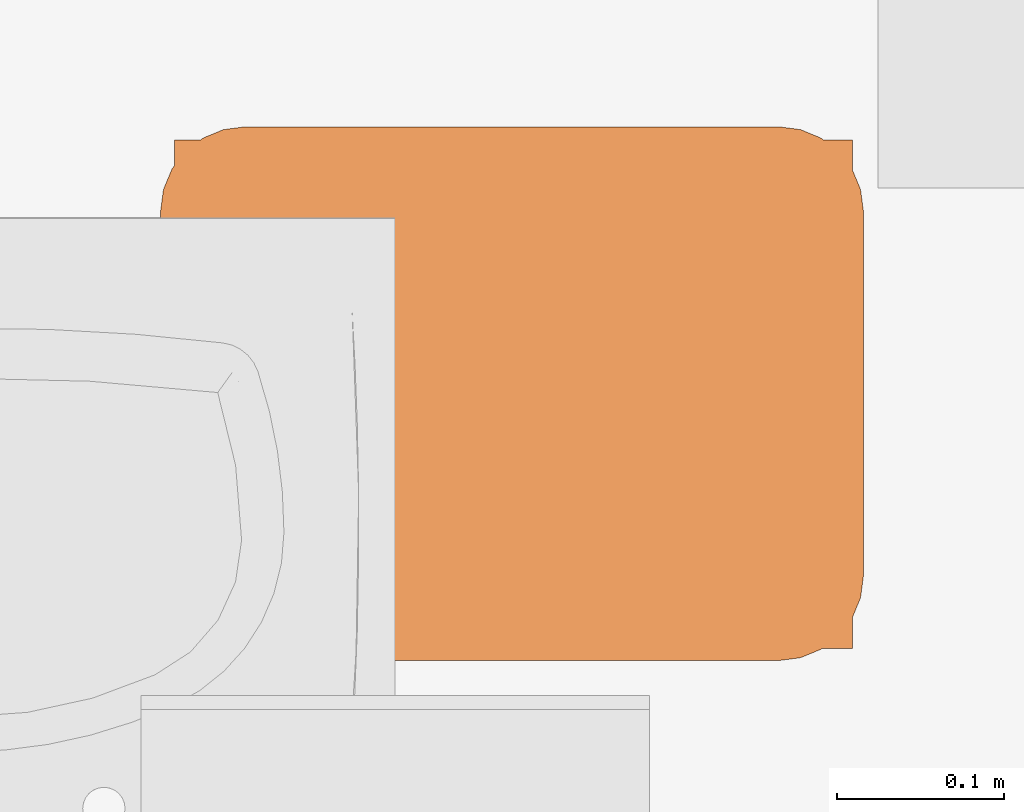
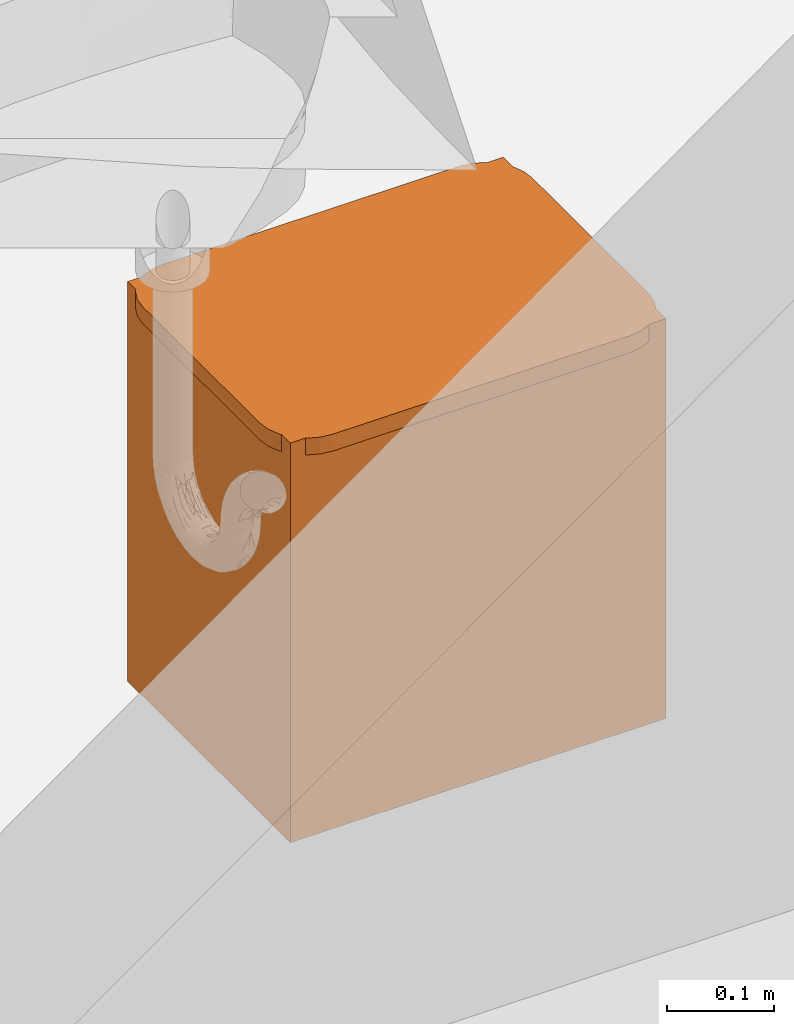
# One storey, part 7 of 9: 1 proxy.
"""IFC2X3 building model written with IfcOpenShell, lengths in feet."""

import ifcopenshell
import ifcopenshell.guid

model = None  # the IFC model being written
_history = None  # IfcOwnerHistory: only IFC2X3 demands one
_inside = {}  # id of a spatial element -> (the spatial element, [elements in it])
_under = {}  # id of a project, library or spatial element -> (it, [spatial elements below it])
_declared = {}  # id of a project -> (the project, [libraries it declares])
_typed = {}  # id of a type object -> (the type object, [elements of that type])
_made_of = {}  # id of a material, layer set ... -> (it, [elements and type objects made of it])


def new_model(schema):
    """Start an empty IFC model of exactly this schema.

    Asked for "IFC4X3", IfcOpenShell would pick the latest addendum, in which some entities
    have other attributes; the version numbers below select the first issue.
    IFC2X3 requires an IfcOwnerHistory on every rooted entity: one is made here for all.
    """
    global model, _history
    if schema == "IFC4X3":
        model = ifcopenshell.file(schema_version=(4, 3, 0, 0))
    else:
        model = ifcopenshell.file(schema=schema)
    _inside.clear()
    _under.clear()
    _declared.clear()
    _typed.clear()
    _made_of.clear()
    _history = None
    if model.schema == "IFC2X3":
        org = make("IfcOrganization", Name="unknown")
        user = make(
            "IfcPersonAndOrganization",
            ThePerson=make("IfcPerson", FamilyName="unknown"),
            TheOrganization=org,
        )
        app = make(
            "IfcApplication",
            ApplicationDeveloper=org,
            Version="unknown",
            ApplicationFullName="unknown",
            ApplicationIdentifier="unknown",
        )
        _history = make(
            "IfcOwnerHistory",
            OwningUser=user,
            OwningApplication=app,
            ChangeAction="ADDED",
            CreationDate=0,
        )
    return model


def make(cls, **values):
    """One entity of the class cls with the attributes given. An attribute that is None is left unset."""
    return model.create_entity(
        cls, **{name: value for name, value in values.items() if value is not None}
    )


def entity(cls, *values):
    """Any entity or typed value of the class cls, its attributes in the order of the schema. None: left unset."""
    e = model.create_entity(cls)
    for i, value in enumerate(values):
        if value is not None:
            e[i] = value
    return e


def rooted(cls, **values):
    """An entity with a GlobalId (a new one), such as an element, a storey or a relation."""
    return make(cls, GlobalId=ifcopenshell.guid.new(), OwnerHistory=_history, **values)


def si_unit(unit_type, name, prefix=None):
    """IfcSIUnit, for example si_unit("LENGTHUNIT", "METRE", prefix="MILLI")."""
    return make("IfcSIUnit", UnitType=unit_type, Prefix=prefix, Name=name)


def converted_unit(unit_type, name, factor, base, dimensions=None, offset=None):
    """IfcConversionBasedUnit, such as the inch: factor (a typed value) times the base unit."""
    return make(
        "IfcConversionBasedUnit"
        if offset is None
        else "IfcConversionBasedUnitWithOffset",
        ConversionOffset=offset,
        Dimensions=None
        if dimensions is None
        else entity("IfcDimensionalExponents", *dimensions),
        UnitType=unit_type,
        Name=name,
        ConversionFactor=make(
            "IfcMeasureWithUnit", ValueComponent=factor, UnitComponent=base
        ),
    )


def derived_unit(unit_type, elements):
    """IfcDerivedUnit: a product of units, each with its exponent."""
    return make(
        "IfcDerivedUnit",
        Elements=[
            make("IfcDerivedUnitElement", Unit=unit, Exponent=power)
            for unit, power in elements
        ],
        UnitType=unit_type,
    )


def assignment(units):
    """IfcUnitAssignment: the units of a project."""
    return None if units is None else make("IfcUnitAssignment", Units=units)


def point(xyz):
    """IfcCartesianPoint."""
    return None if xyz is None else make("IfcCartesianPoint", Coordinates=xyz)


def direction(xyz):
    """IfcDirection."""
    return None if xyz is None else make("IfcDirection", DirectionRatios=xyz)


def frame(location, z_axis=None, x_axis=None):
    """IfcAxis2Placement3D, a coordinate frame: its origin and axes. An axis left out is left unset."""
    return make(
        "IfcAxis2Placement3D",
        Location=point(location),
        Axis=direction(z_axis),
        RefDirection=direction(x_axis),
    )


def origin():
    """The frame at (0, 0, 0) with its axes left unset."""
    return frame((0.0, 0.0, 0.0))


def place(relative_to, where):
    """IfcLocalPlacement: puts the frame where relative to a parent placement (None: the world)."""
    return make(
        "IfcLocalPlacement", PlacementRelTo=relative_to, RelativePlacement=where
    )


def context(
    kind, dimensions, precision=None, world=None, true_north=None, identifier=None
):
    """IfcGeometricRepresentationContext, for example the 3D "Model" context."""
    return make(
        "IfcGeometricRepresentationContext",
        ContextIdentifier=identifier,
        ContextType=kind,
        CoordinateSpaceDimension=dimensions,
        Precision=precision,
        WorldCoordinateSystem=world,
        TrueNorth=true_north,
    )


def subcontext(parent, identifier, kind, view, scale=None):
    """IfcGeometricRepresentationSubContext, for example "Body" below "Model"."""
    return make(
        "IfcGeometricRepresentationSubContext",
        ContextIdentifier=identifier,
        ContextType=kind,
        ParentContext=parent,
        TargetScale=scale,
        TargetView=view,
    )


def project(units=None, contexts=None):
    """IfcProject with its units and contexts."""
    return rooted(
        "IfcProject",
        Name="project",
        RepresentationContexts=contexts,
        UnitsInContext=assignment(units),
    )


def spatial(cls, under=None, at=None, **own):
    """A site, building, storey or space (cls), placed at a placement, below another one or the project."""
    s = rooted(cls, ObjectPlacement=at, **own)
    if under is not None:
        _under.setdefault(under.id(), (under, []))[1].append(s)
    return s


def faces_of(points, faces, orient=None, outer=None):
    """IfcFace entities. A face is a list of loops; a loop is a list of indices into points, from 0.

    orient and outer hold one flag for each loop. By default every Orientation is true, the
    first loop of a face is its IfcFaceOuterBound and the others are IfcFaceBound.
    """
    made = []
    for i, loops in enumerate(faces):
        bounds = []
        for j, loop in enumerate(loops):
            is_outer = j == 0 if outer is None else outer[i][j]
            bounds.append(
                make(
                    "IfcFaceOuterBound" if is_outer else "IfcFaceBound",
                    Bound=make("IfcPolyLoop", Polygon=[points[k] for k in loop]),
                    Orientation=True if orient is None else orient[i][j],
                )
            )
        made.append(make("IfcFace", Bounds=bounds))
    return made


def faceted_brep(points, faces, orient=None, outer=None, voids=None):
    """IfcFacetedBrep: a solid bounded by flat faces; with voids (closed shells), ...WithVoids."""
    shared = [point(p) for p in points]
    hull = make("IfcClosedShell", CfsFaces=faces_of(shared, faces, orient, outer))
    if voids is None:
        return make("IfcFacetedBrep", Outer=hull)
    return make(
        "IfcFacetedBrepWithVoids",
        Outer=hull,
        Voids=[
            make(cls, CfsFaces=faces_of(shared, fs, o, b)) for cls, fs, o, b in voids
        ],
    )


def shape(context_of_items, identifier, shape_type, items):
    """IfcShapeRepresentation: the items that make up one representation, for example the "Body"."""
    return make(
        "IfcShapeRepresentation",
        ContextOfItems=context_of_items,
        RepresentationIdentifier=identifier,
        RepresentationType=shape_type,
        Items=items,
    )


def source(mapping_origin, context_of_items, identifier, shape_type, items):
    """IfcRepresentationMap: a shape defined once, which mapped items show again and again."""
    return make(
        "IfcRepresentationMap",
        MappingOrigin=mapping_origin,
        MappedRepresentation=shape(context_of_items, identifier, shape_type, items),
    )


def transform(
    local_origin,
    x_axis=None,
    y_axis=None,
    z_axis=None,
    scale=None,
    scale2=None,
    scale3=None,
    uniform=True,
):
    """IfcCartesianTransformationOperator3D, or its non-uniform kind. x_axis, y_axis, z_axis: its Axis1, 2, 3."""
    if uniform:
        return make(
            "IfcCartesianTransformationOperator3D",
            Axis1=direction(x_axis),
            Axis2=direction(y_axis),
            LocalOrigin=point(local_origin),
            Scale=scale,
            Axis3=direction(z_axis),
        )
    return make(
        "IfcCartesianTransformationOperator3DnonUniform",
        Axis1=direction(x_axis),
        Axis2=direction(y_axis),
        LocalOrigin=point(local_origin),
        Scale=scale,
        Axis3=direction(z_axis),
        Scale2=scale2,
        Scale3=scale3,
    )


def mapped(mapping_source, mapping_target):
    """IfcMappedItem: shows the shape of a source again, moved by a transform."""
    return make(
        "IfcMappedItem", MappingSource=mapping_source, MappingTarget=mapping_target
    )


def made_of(thing, what):
    """Note that an element or type object is made of a material, layer set ...; save() writes the relation."""
    if what is not None:
        _made_of.setdefault(what.id(), (what, []))[1].append(thing)
    return thing


def type_object(cls, material=None, **own):
    """A type object (cls), such as IfcWallType, which elements share."""
    return made_of(rooted(cls, **own), material)


def type_shapes(of_type, sources):
    """Give a type object the sources (RepresentationMaps) that its elements show as mapped items."""
    of_type.RepresentationMaps = sources


def element(
    cls,
    number,
    at=None,
    inside=None,
    cuts=None,
    type_object=None,
    material=None,
    context=None,
    identifier="Body",
    shape_type=None,
    held_by="IfcProductDefinitionShape",
    body=None,
    shapes=None,
    **own,
):
    """One element of the class cls, such as IfcWall. Its Tag is "e" and its number.

    at: its placement. inside: the storey or other place that contains it. cuts: it is an
    opening in that element (IfcRelVoidsElement). A single representation is given by context,
    identifier, shape_type and body (its items); several are given by shapes. held_by: the class
    of the entity that holds the representations. save() writes the other relations.
    """
    e = rooted(cls, Tag="e%d" % number, ObjectPlacement=at, **own)
    if body is not None:
        shapes = [shape(context, identifier, shape_type, body)]
    if shapes is not None:
        e.Representation = make(held_by, Representations=shapes)
    if inside is not None:
        _inside.setdefault(inside.id(), (inside, []))[1].append(e)
    if cuts is not None:
        rooted(
            "IfcRelVoidsElement", RelatingBuildingElement=cuts, RelatedOpeningElement=e
        )
    if type_object is not None:
        _typed.setdefault(type_object.id(), (type_object, []))[1].append(e)
    return made_of(e, material)


def aggregate(whole, parts):
    """IfcRelAggregates: a whole, such as a stair, and the parts it consists of."""
    return rooted("IfcRelAggregates", RelatingObject=whole, RelatedObjects=parts)


def save(model, path):
    """Write the relations noted so far, then the file.

    IfcRelAggregates (storeys below a building ...), IfcRelContainedInSpatialStructure (elements
    in a storey), IfcRelDefinesByType, IfcRelAssociatesMaterial and IfcRelDeclares: one each for
    every whole, place, type object, material and project.
    """
    for whole, parts in _under.values():
        aggregate(whole, parts)
    for where, things in _inside.values():
        rooted(
            "IfcRelContainedInSpatialStructure",
            RelatedElements=things,
            RelatingStructure=where,
        )
    for kind, things in _typed.values():
        rooted("IfcRelDefinesByType", RelatedObjects=things, RelatingType=kind)
    for what, things in _made_of.values():
        rooted("IfcRelAssociatesMaterial", RelatedObjects=things, RelatingMaterial=what)
    for by, libraries in _declared.values():
        rooted("IfcRelDeclares", RelatingContext=by, RelatedDefinitions=libraries)
    model.write(path)


model = new_model("IFC2X3")

# Units and contexts
model_context = context("Model", 3, precision=0.0001, world=origin(), true_north=direction((6.12303176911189e-17, 1.0)))
body_context = subcontext(model_context, "Body", "Model", "MODEL_VIEW")
ifc_project = project(units=[converted_unit("LENGTHUNIT", "FOOT", entity("IfcRatioMeasure", 0.3048), si_unit("LENGTHUNIT", "METRE"), dimensions=[1, 0, 0, 0, 0, 0, 0]), converted_unit("AREAUNIT", "SQUARE FOOT", entity("IfcRatioMeasure", 0.09290304), si_unit("AREAUNIT", "SQUARE_METRE"), dimensions=[2, 0, 0, 0, 0, 0, 0]), converted_unit("VOLUMEUNIT", "CUBIC FOOT", entity("IfcRatioMeasure", 0.028316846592), si_unit("VOLUMEUNIT", "CUBIC_METRE"), dimensions=[3, 0, 0, 0, 0, 0, 0]), converted_unit("PLANEANGLEUNIT", "DEGREE", entity("IfcRatioMeasure", 0.0174532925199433), si_unit("PLANEANGLEUNIT", "RADIAN"), dimensions=[0, 0, 0, 0, 0, 0, 0]), si_unit("MASSUNIT", "GRAM", prefix="KILO"), derived_unit("MASSDENSITYUNIT", [(si_unit("MASSUNIT", "GRAM", prefix="KILO"), 1), (si_unit("LENGTHUNIT", "METRE"), -3)]), si_unit("TIMEUNIT", "SECOND"), si_unit("FREQUENCYUNIT", "HERTZ"), si_unit("THERMODYNAMICTEMPERATUREUNIT", "DEGREE_CELSIUS"), derived_unit("THERMALTRANSMITTANCEUNIT", [(si_unit("MASSUNIT", "GRAM", prefix="KILO"), 1), (si_unit("THERMODYNAMICTEMPERATUREUNIT", "KELVIN"), -1), (si_unit("TIMEUNIT", "SECOND"), -3)]), derived_unit("VOLUMETRICFLOWRATEUNIT", [(si_unit("LENGTHUNIT", "METRE"), 3), (si_unit("TIMEUNIT", "SECOND"), -1)]), si_unit("ELECTRICCURRENTUNIT", "AMPERE"), si_unit("ELECTRICVOLTAGEUNIT", "VOLT"), si_unit("POWERUNIT", "WATT"), si_unit("FORCEUNIT", "NEWTON"), si_unit("ILLUMINANCEUNIT", "LUX"), si_unit("LUMINOUSFLUXUNIT", "LUMEN"), si_unit("LUMINOUSINTENSITYUNIT", "CANDELA"), derived_unit("USERDEFINED", [(si_unit("MASSUNIT", "GRAM", prefix="KILO"), -1), (si_unit("LENGTHUNIT", "METRE"), -2), (si_unit("TIMEUNIT", "SECOND"), 3), (si_unit("LUMINOUSFLUXUNIT", "LUMEN"), 1)]), derived_unit("LINEARVELOCITYUNIT", [(si_unit("LENGTHUNIT", "METRE"), 1), (si_unit("TIMEUNIT", "SECOND"), -1)]), si_unit("PRESSUREUNIT", "PASCAL"), derived_unit("USERDEFINED", [(si_unit("LENGTHUNIT", "METRE"), -2), (si_unit("MASSUNIT", "GRAM", prefix="KILO"), 1), (si_unit("TIMEUNIT", "SECOND"), -2)])], contexts=[model_context])

# Site, building, storey, space
site_placement = place(None, origin())
site = spatial("IfcSite", under=ifc_project, at=site_placement, Name="Default", CompositionType="ELEMENT")
building_placement = place(site_placement, origin())
building = spatial("IfcBuilding", under=site, at=building_placement, Name="AUDIOLOGY AND SPEECH PATHOLOGY (Ch. 204)", CompositionType="ELEMENT")
storey_placement = place(building_placement, frame((0.0, 0.0, 42.0)))
storey = spatial("IfcBuildingStorey", under=building, at=storey_placement, Name="AUD01 - Audiology Rehabilitation/Counseling", CompositionType="ELEMENT", Elevation=42.0)
space_placement = place(storey_placement, origin())
space = spatial("IfcSpace", under=storey, at=space_placement, Name="(AUD01)", CompositionType="ELEMENT", InteriorOrExteriorSpace="INTERNAL")

# Proxy
building_element_proxy_type = type_object("IfcBuildingElementProxyType", Name="A5108 - Waste Disposal Unit, Sharps", PredefinedType="NOTDEFINED")
shared_shape = source(origin(), body_context, "Body", "Brep", [
    faceted_brep([(0.688333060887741, 0.359461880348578, 1.49999999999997), (0.68265403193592, 0.402598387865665, 1.49999999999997), (0.666003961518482, 0.442795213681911, 1.49999999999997), (0.639517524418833, 0.477313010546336, 1.49999999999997), (0.604999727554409, 0.503799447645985, 1.49999999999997), (0.564802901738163, 0.520449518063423, 1.49999999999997), (0.521666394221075, 0.526128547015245, 1.49999999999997), (-0.527471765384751, 0.526128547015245, 1.49999999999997), (-0.570608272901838, 0.520449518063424, 1.49999999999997), (-0.610805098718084, 0.503799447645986, 1.49999999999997), (-0.645322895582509, 0.477313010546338, 1.49999999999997), (-0.671809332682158, 0.442795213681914, 1.49999999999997), (-0.688459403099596, 0.402598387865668, 1.49999999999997), (-0.694138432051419, 0.35946188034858, 1.49999999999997), (-0.694138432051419, -0.35717823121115, 1.49999999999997), (-0.688459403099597, -0.400314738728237, 1.49999999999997), (-0.671809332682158, -0.440511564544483, 1.49999999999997), (-0.64532289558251, -0.475029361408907, 1.49999999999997), (-0.610805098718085, -0.501515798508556, 1.49999999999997), (-0.570608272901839, -0.518165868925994, 1.49999999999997), (-0.527471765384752, -0.523844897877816, 1.49999999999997), (0.521666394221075, -0.523844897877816, 1.49999999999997), (0.564802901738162, -0.518165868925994, 1.49999999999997), (0.604999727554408, -0.501515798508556, 1.49999999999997), (0.639517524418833, -0.475029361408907, 1.49999999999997), (0.666003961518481, -0.440511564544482, 1.49999999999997), (0.68265403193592, -0.400314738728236, 1.49999999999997), (0.688333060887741, -0.357178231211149, 1.49999999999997), (-0.694138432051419, 0.359461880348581, 1.43667138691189), (-0.688459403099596, 0.402598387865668, 1.43667138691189), (-0.671809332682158, 0.442795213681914, 1.43667138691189), (-0.645322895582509, 0.477313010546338, 1.43667138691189), (-0.610805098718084, 0.503799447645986, 1.43667138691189), (-0.570608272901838, 0.520449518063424, 1.43667138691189), (-0.527471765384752, 0.526128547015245, 1.43667138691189), (0.521666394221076, 0.526128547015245, 1.43667138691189), (0.564802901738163, 0.520449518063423, 1.43667138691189), (0.604999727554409, 0.503799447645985, 1.43667138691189), (0.639517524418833, 0.477313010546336, 1.43667138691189), (0.666003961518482, 0.442795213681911, 1.43667138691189), (0.68265403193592, 0.402598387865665, 1.43667138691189), (0.688333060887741, 0.359461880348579, 1.43667138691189), (0.688333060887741, -0.357178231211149, 1.43667138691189), (0.68265403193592, -0.400314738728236, 1.43667138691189), (0.666003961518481, -0.440511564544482, 1.43667138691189), (0.639517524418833, -0.475029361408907, 1.43667138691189), (0.604999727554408, -0.501515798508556, 1.43667138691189), (0.564802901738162, -0.518165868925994, 1.43667138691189), (0.521666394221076, -0.523844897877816, 1.43667138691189), (-0.527471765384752, -0.523844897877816, 1.43667138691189), (-0.570608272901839, -0.518165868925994, 1.43667138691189), (-0.610805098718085, -0.501515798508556, 1.43667138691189), (-0.64532289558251, -0.475029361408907, 1.43667138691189), (-0.671809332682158, -0.440511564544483, 1.43667138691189), (-0.688459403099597, -0.400314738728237, 1.43667138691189), (-0.694138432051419, -0.357178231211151, 1.43667138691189)], [[[0, 1, 2, 3, 4, 5, 6, 7, 8, 9, 10, 11, 12, 13, 14, 15, 16, 17, 18, 19, 20, 21, 22, 23, 24, 25, 26, 27]], [[28, 29, 30, 31, 32, 33, 34, 35, 36, 37, 38, 39, 40, 41, 42, 43, 44, 45, 46, 47, 48, 49, 50, 51, 52, 53, 54, 55]], [[7, 6, 35, 34]], [[8, 7, 34, 33]], [[9, 8, 33, 32]], [[10, 9, 32, 31]], [[11, 10, 31, 30]], [[12, 11, 30, 29]], [[13, 12, 29, 28]], [[14, 13, 28, 55]], [[15, 14, 55, 54]], [[16, 15, 54, 53]], [[17, 16, 53, 52]], [[18, 17, 52, 51]], [[19, 18, 51, 50]], [[20, 19, 50, 49]], [[21, 20, 49, 48]], [[22, 21, 48, 47]], [[23, 22, 47, 46]], [[24, 23, 46, 45]], [[25, 24, 45, 44]], [[26, 25, 44, 43]], [[27, 26, 43, 42]], [[0, 27, 42, 41]], [[1, 0, 41, 40]], [[2, 1, 40, 39]], [[3, 2, 39, 38]], [[4, 3, 38, 37]], [[5, 4, 37, 36]], [[6, 5, 36, 35]]]),
    faceted_brep([(0.462611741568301, -0.333333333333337, 0.0), (-0.476899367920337, -0.333333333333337, 0.0), (-0.492790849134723, -0.329075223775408, 0.0), (-0.518566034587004, -0.322168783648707, 0.0), (-0.533817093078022, -0.306917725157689, 0.0), (-0.549068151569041, -0.291666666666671, 0.0), (-0.555974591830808, -0.265891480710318, 0.0), (-0.560232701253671, -0.250000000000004, 0.0), (-0.560232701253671, 0.288512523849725, 0.0), (-0.555979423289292, 0.304385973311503, 0.0), (-0.549068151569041, 0.330179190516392, 0.0), (-0.533817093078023, 0.34543024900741, 0.0), (-0.518566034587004, 0.360681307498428, 0.0), (-0.492772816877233, 0.367592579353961, 0.0), (-0.476899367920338, 0.371845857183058, 0.0), (0.4626117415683, 0.371845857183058, 0.0), (0.478490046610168, 0.367591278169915, 0.0), (0.504278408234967, 0.360681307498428, 0.0), (0.519529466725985, 0.34543024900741, 0.0), (0.534780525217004, 0.330179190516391, 0.0), (0.541690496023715, 0.304390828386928, 0.0), (0.545945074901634, 0.288512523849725, 0.0), (0.545945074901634, -0.250000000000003, 0.0), (0.541685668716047, -0.265896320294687, 0.0), (0.534780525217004, -0.29166666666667, 0.0), (0.519529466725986, -0.306917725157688, 0.0), (0.504278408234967, -0.322168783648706, 0.0), (0.47850806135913, -0.329073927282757, 0.0), (0.635915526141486, 0.424149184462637, 1.43667138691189), (0.617851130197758, 0.451184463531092, 1.43667138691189), (0.590815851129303, 0.46924885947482, 1.43667138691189), (0.563780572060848, 0.487313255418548, 1.43667138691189), (0.532407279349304, 0.493553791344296, 1.43667138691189), (0.5, 0.5, 1.43667138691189), (-0.5, 0.5, 1.43667138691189), (-0.531890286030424, 0.493656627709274, 1.43667138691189), (-0.563780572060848, 0.487313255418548, 1.43667138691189), (-0.590815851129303, 0.46924885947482, 1.43667138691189), (-0.617851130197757, 0.451184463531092, 1.43667138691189), (-0.635915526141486, 0.424149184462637, 1.43667138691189), (-0.653979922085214, 0.397113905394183, 1.43667138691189), (-0.660222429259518, 0.365730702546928, 1.43667138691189), (-0.666666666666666, 0.333333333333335, 1.43667138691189), (-0.666666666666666, -0.333333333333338, 1.43667138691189), (-0.66032329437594, -0.365223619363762, 1.43667138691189), (-0.653979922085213, -0.397113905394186, 1.43667138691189), (-0.635915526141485, -0.42414918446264, 1.43667138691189), (-0.617851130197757, -0.451184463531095, 1.43667138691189), (-0.590815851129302, -0.469248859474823, 1.43667138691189), (-0.563780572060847, -0.48731325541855, 1.43667138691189), (-0.532434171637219, -0.493548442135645, 1.43667138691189), (-0.5, -0.500000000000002, 1.43667138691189), (0.500000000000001, -0.500000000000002, 1.43667138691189), (0.531890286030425, -0.493656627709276, 1.43667138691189), (0.563780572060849, -0.487313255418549, 1.43667138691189), (0.590815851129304, -0.469248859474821, 1.43667138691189), (0.617851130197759, -0.451184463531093, 1.43667138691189), (0.635915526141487, -0.424149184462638, 1.43667138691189), (0.653979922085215, -0.397113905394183, 1.43667138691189), (0.660213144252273, -0.365777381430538, 1.43667138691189), (0.666666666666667, -0.333333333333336, 1.43667138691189), (0.666666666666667, 0.333333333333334, 1.43667138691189), (0.660323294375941, 0.365223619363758, 1.43667138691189), (0.653979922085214, 0.397113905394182, 1.43667138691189), (-0.484188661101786, 0.412284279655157, 0.45333473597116), (-0.491477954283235, 0.452722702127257, 0.906669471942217), (-0.49573897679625, 0.476361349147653, 1.17167040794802), (0.493105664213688, 0.476368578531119, 1.17175145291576), (0.486211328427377, 0.452737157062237, 0.906831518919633), (0.474411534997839, 0.412291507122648, 0.453415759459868), (-0.647034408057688, 0.325065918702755, 1.1716704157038), (-0.533119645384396, 0.462392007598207, 1.07450882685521), (-0.619394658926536, 0.4066068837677, 1.13585031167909), (-0.593737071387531, 0.381704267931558, 0.739385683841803), (-0.610146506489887, 0.364337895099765, 0.811214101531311), (-0.63090261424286, 0.363052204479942, 1.03916987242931), (-0.590787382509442, 0.411714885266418, 0.922565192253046), (-0.567795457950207, 0.407311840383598, 0.716669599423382), (-0.505834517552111, 0.410511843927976, 0.457456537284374), (-0.567818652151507, 0.459937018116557, 1.18916146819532), (-0.593818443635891, 0.441130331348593, 1.17883070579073), (-0.552715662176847, 0.388598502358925, 0.45647315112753), (-0.517734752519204, 0.392983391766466, 0.310402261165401), (-0.582988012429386, 0.338680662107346, 0.400125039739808), (-0.565185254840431, 0.360082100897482, 0.337561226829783), (-0.52443746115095, 0.426920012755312, 0.680002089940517), (-0.543487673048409, 0.411299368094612, 0.60527803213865), (-0.56868319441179, 0.43259385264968, 0.941651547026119), (-0.627402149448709, 0.316798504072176, 0.906669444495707), (-0.579572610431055, 0.313954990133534, 0.280100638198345), (-0.609159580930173, 0.33711396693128, 0.699907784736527), (-0.59381742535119, 0.302655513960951, 0.453334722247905), (-0.593839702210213, -0.276312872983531, 0.453635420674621), (-0.627446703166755, -0.302625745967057, 0.907270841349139), (-0.647056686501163, -0.317979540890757, 1.17197113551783), (-0.495743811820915, -0.469292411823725, 1.17197110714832), (-0.634522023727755, -0.351334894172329, 1.07457657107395), (-0.577992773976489, -0.440049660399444, 1.1361954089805), (-0.558908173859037, -0.397826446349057, 0.739290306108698), (-0.540510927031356, -0.417339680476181, 0.812024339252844), (-0.535775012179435, -0.447612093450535, 1.03962090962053), (-0.586155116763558, -0.402637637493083, 0.923034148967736), (-0.584890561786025, -0.370982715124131, 0.717100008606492), (-0.592022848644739, -0.298173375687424, 0.458055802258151), (-0.6303670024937, -0.39080220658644, 1.18947920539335), (-0.611691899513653, -0.416383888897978, 1.17906027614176), (-0.570172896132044, -0.344927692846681, 0.456969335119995), (-0.576704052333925, -0.303894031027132, 0.310838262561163), (-0.521022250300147, -0.372837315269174, 0.399925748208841), (-0.54339654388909, -0.352363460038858, 0.337195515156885), (-0.605056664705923, -0.326087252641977, 0.680453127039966), (-0.590627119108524, -0.342081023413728, 0.606641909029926), (-0.606785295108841, -0.38132007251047, 0.942287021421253), (-0.491487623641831, -0.438584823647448, 0.907270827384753), (-0.498087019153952, -0.364388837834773, 0.279840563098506), (-0.514970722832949, -0.411629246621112, 0.700210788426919), (-0.484193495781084, -0.385959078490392, 0.453635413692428), (0.474419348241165, -0.385968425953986, 0.453715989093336), (0.486226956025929, -0.438603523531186, 0.907432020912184), (0.493113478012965, -0.469301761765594, 1.17205170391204), (0.644431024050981, -0.317984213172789, 1.17205168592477), (0.52959849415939, -0.452672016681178, 1.07459483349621), (0.616304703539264, -0.398778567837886, 1.13628788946), (0.586793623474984, -0.363001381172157, 0.739264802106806), (0.603997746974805, -0.347678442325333, 0.812241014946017), (0.62698376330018, -0.352479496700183, 1.03974177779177), (0.585745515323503, -0.397959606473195, 0.923159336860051), (0.5606684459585, -0.388067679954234, 0.717214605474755), (0.496147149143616, -0.384345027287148, 0.458216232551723), (0.565378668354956, -0.453346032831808, 1.18956415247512), (0.591298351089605, -0.43422650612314, 1.17912156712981), (0.542914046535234, -0.362461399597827, 0.457101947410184), (0.506573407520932, -0.362848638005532, 0.310954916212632), (0.572653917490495, -0.310888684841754, 0.399872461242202), (0.554174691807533, -0.330638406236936, 0.337097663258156), (0.516944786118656, -0.406698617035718, 0.680573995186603), (0.535311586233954, -0.389201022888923, 0.607005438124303), (0.563807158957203, -0.419409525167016, 0.942456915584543), (0.622195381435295, -0.302635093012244, 0.907431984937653), (0.568046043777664, -0.282911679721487, 0.279771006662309), (0.601852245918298, -0.31744501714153, 0.700291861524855), (0.584070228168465, -0.276317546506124, 0.453715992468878), (0.584044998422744, 0.302658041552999, 0.453415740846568), (0.622144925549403, 0.316803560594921, 0.906831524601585), (0.644405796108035, 0.325068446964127, 1.17175145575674), (0.6309292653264, 0.360994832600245, 1.07452702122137), (0.5748768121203, 0.448159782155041, 1.13594331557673), (0.551976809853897, 0.416526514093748, 0.739359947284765), (0.534256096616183, 0.434040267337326, 0.811432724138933), (0.53178906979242, 0.458234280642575, 1.03929142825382), (0.581042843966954, 0.416363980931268, 0.922691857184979), (0.577711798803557, 0.390251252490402, 0.716786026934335), (0.582256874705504, 0.324375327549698, 0.457618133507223), (0.627890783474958, 0.397415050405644, 1.18924721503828), (0.609130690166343, 0.423263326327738, 1.1788927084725), (0.560361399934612, 0.371219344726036, 0.456607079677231), (0.565485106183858, 0.334049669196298, 0.310519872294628), (0.51071038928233, 0.400644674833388, 0.400071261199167), (0.53244230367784, 0.381884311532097, 0.337462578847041), (0.597510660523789, 0.346338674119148, 0.680123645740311), (0.582295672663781, 0.364273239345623, 0.605646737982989), (0.6018342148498, 0.394543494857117, 0.941823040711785), (0.486599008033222, 0.395414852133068, 0.280030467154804), (0.507606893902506, 0.431358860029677, 0.69998951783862)], [[[0, 1, 2, 3, 4, 5, 6, 7, 8, 9, 10, 11, 12, 13, 14, 15, 16, 17, 18, 19, 20, 21, 22, 23, 24, 25, 26, 27]], [[28, 29, 30, 31, 32, 33, 34, 35, 36, 37, 38, 39, 40, 41, 42, 43, 44, 45, 46, 47, 48, 49, 50, 51, 52, 53, 54, 55, 56, 57, 58, 59, 60, 61, 62, 63]], [[15, 14, 64, 65, 66, 34, 33, 67, 68, 69]], [[70, 42, 41]], [[35, 66, 71]], [[72, 73, 74]], [[40, 75, 41]], [[76, 77, 73]], [[65, 64, 78]], [[37, 79, 80]], [[81, 82, 12]], [[80, 76, 72]], [[79, 37, 36]], [[83, 10, 9]], [[83, 84, 10]], [[65, 85, 71]], [[82, 78, 13]], [[81, 11, 84]], [[72, 40, 39, 38]], [[82, 13, 12]], [[77, 86, 81]], [[64, 14, 13]], [[86, 82, 81]], [[78, 82, 85]], [[87, 71, 85]], [[72, 75, 40]], [[88, 70, 75]], [[9, 89, 83]], [[73, 81, 84]], [[75, 90, 88]], [[70, 41, 75]], [[37, 80, 38]], [[83, 90, 74]], [[8, 91, 89]], [[91, 88, 90]], [[74, 90, 75]], [[90, 83, 89]], [[73, 84, 83]], [[87, 80, 79]], [[11, 81, 12]], [[11, 10, 84]], [[36, 71, 79]], [[71, 87, 79]], [[76, 80, 87]], [[72, 38, 80]], [[77, 76, 87]], [[72, 76, 73]], [[86, 87, 85]], [[73, 77, 81]], [[87, 86, 77]], [[82, 86, 85]], [[65, 78, 85]], [[13, 78, 64]], [[71, 36, 35]], [[8, 89, 9]], [[90, 89, 91]], [[72, 74, 75]], [[83, 74, 73]], [[66, 35, 34]], [[66, 65, 71]], [[42, 70, 88, 91, 8, 7, 92, 93, 94, 43]], [[95, 51, 50]], [[44, 94, 96]], [[97, 98, 99]], [[49, 100, 50]], [[101, 102, 98]], [[93, 92, 103]], [[46, 104, 105]], [[106, 107, 5]], [[105, 101, 97]], [[104, 46, 45]], [[108, 3, 2]], [[108, 109, 3]], [[93, 110, 96]], [[107, 103, 6]], [[106, 4, 109]], [[97, 49, 48, 47]], [[107, 6, 5]], [[102, 111, 106]], [[92, 7, 6]], [[111, 107, 106]], [[103, 107, 110]], [[112, 96, 110]], [[97, 100, 49]], [[113, 95, 100]], [[2, 114, 108]], [[98, 106, 109]], [[100, 115, 113]], [[95, 50, 100]], [[46, 105, 47]], [[108, 115, 99]], [[1, 116, 114]], [[116, 113, 115]], [[99, 115, 100]], [[115, 108, 114]], [[98, 109, 108]], [[112, 105, 104]], [[4, 106, 5]], [[4, 3, 109]], [[45, 96, 104]], [[96, 112, 104]], [[101, 105, 112]], [[97, 47, 105]], [[102, 101, 112]], [[97, 101, 98]], [[111, 112, 110]], [[98, 102, 106]], [[112, 111, 102]], [[107, 111, 110]], [[93, 103, 110]], [[6, 103, 92]], [[96, 45, 44]], [[1, 114, 2]], [[115, 114, 116]], [[97, 99, 100]], [[108, 99, 98]], [[94, 44, 43]], [[94, 93, 96]], [[51, 95, 113, 116, 1, 0, 117, 118, 119, 52]], [[120, 60, 59]], [[53, 119, 121]], [[122, 123, 124]], [[58, 125, 59]], [[126, 127, 123]], [[118, 117, 128]], [[55, 129, 130]], [[131, 132, 26]], [[130, 126, 122]], [[54, 129, 55]], [[133, 24, 23]], [[133, 134, 24]], [[118, 135, 121]], [[132, 128, 27]], [[131, 25, 134]], [[122, 58, 57, 56]], [[132, 27, 26]], [[127, 136, 131]], [[117, 0, 27]], [[136, 132, 131]], [[128, 132, 135]], [[137, 121, 135]], [[122, 125, 58]], [[138, 120, 125]], [[23, 139, 133]], [[123, 131, 134]], [[125, 140, 138]], [[120, 59, 125]], [[55, 130, 56]], [[133, 140, 124]], [[22, 141, 139]], [[141, 138, 140]], [[124, 140, 125]], [[140, 133, 139]], [[123, 134, 133]], [[129, 121, 137]], [[25, 131, 26]], [[25, 24, 134]], [[121, 129, 54]], [[129, 137, 130]], [[126, 130, 137]], [[122, 56, 130]], [[127, 126, 137]], [[122, 126, 123]], [[136, 137, 135]], [[123, 127, 131]], [[137, 136, 127]], [[132, 136, 135]], [[118, 128, 135]], [[27, 128, 117]], [[121, 54, 53]], [[22, 139, 23]], [[140, 139, 141]], [[122, 124, 125]], [[133, 124, 123]], [[119, 53, 52]], [[119, 118, 121]], [[22, 21, 142, 143, 144, 61, 60, 120, 138, 141]], [[67, 33, 32]], [[62, 144, 145]], [[146, 147, 148]], [[31, 149, 32]], [[150, 151, 147]], [[143, 142, 152]], [[28, 153, 154]], [[155, 156, 19]], [[154, 150, 146]], [[63, 153, 28]], [[157, 17, 16]], [[157, 158, 17]], [[143, 159, 145]], [[156, 152, 20]], [[155, 18, 158]], [[146, 31, 30, 29]], [[156, 20, 19]], [[151, 160, 155]], [[142, 21, 20]], [[160, 156, 155]], [[152, 156, 159]], [[161, 145, 159]], [[146, 149, 31]], [[68, 67, 149]], [[16, 162, 157]], [[147, 155, 158]], [[149, 163, 68]], [[67, 32, 149]], [[28, 154, 29]], [[157, 163, 148]], [[15, 69, 162]], [[69, 68, 163]], [[148, 163, 149]], [[163, 157, 162]], [[147, 158, 157]], [[153, 145, 161]], [[18, 155, 19]], [[18, 17, 158]], [[145, 153, 63]], [[153, 161, 154]], [[150, 154, 161]], [[146, 29, 154]], [[151, 150, 161]], [[146, 150, 147]], [[160, 161, 159]], [[147, 151, 155]], [[161, 160, 151]], [[156, 160, 159]], [[143, 152, 159]], [[20, 152, 142]], [[145, 63, 62]], [[15, 162, 16]], [[163, 162, 69]], [[146, 148, 149]], [[157, 148, 147]], [[144, 62, 61]], [[144, 143, 145]]]),
    faceted_brep([(-0.666666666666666, 0.5, 1.49999999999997), (-0.666666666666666, 0.0, 1.49999999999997), (-0.666666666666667, -0.500000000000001, 1.49999999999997), (0.666666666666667, -0.500000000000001, 1.49999999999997), (0.666666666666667, 0.5, 1.49999999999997), (-0.666666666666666, 0.5, 0.0), (0.666666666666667, 0.5, 0.0), (0.666666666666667, -0.500000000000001, 0.0), (-0.666666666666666, -0.500000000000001, 0.0), (-0.666666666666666, 0.0, 0.0)], [[[0, 1, 2, 3, 4]], [[5, 6, 7, 8, 9]], [[1, 0, 5, 9]], [[2, 1, 9, 8]], [[3, 2, 8, 7]], [[4, 3, 7, 6]], [[0, 4, 6, 5]]]),
])
type_shapes(building_element_proxy_type, [shared_shape])
proxy_placement = place(space_placement, frame((6.71040088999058, 1.7713131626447, 0.0)))
element("IfcBuildingElementProxy", 1, at=proxy_placement, inside=space, type_object=building_element_proxy_type, Name="A5108 - Waste Disposal Unit, Sharps:A5108 - Waste Disposal Unit, Sharps", ObjectType="A5108 - Waste Disposal Unit, Sharps", context=body_context, shape_type="MappedRepresentation", body=[
    mapped(shared_shape, transform((0.0, 0.0, 0.0), scale=1.0)),
])

save(model, "model.ifc")
